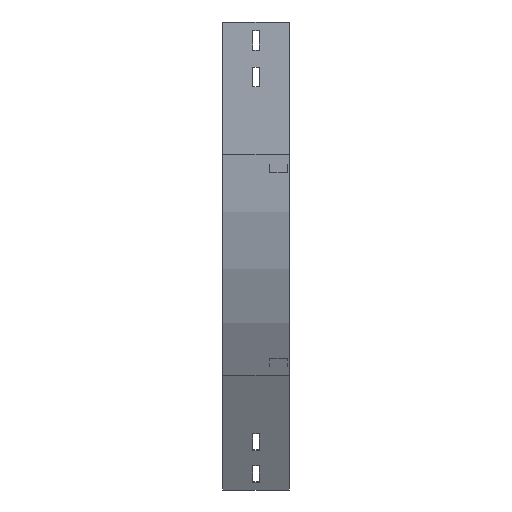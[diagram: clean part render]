
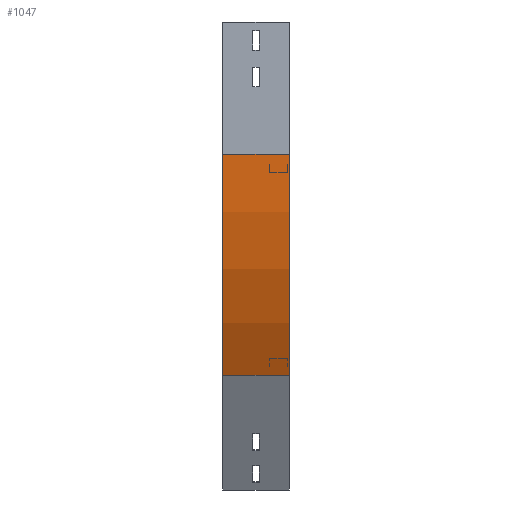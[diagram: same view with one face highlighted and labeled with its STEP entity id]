
A CAD part, left-side view. The second image highlights one B-rep face of the part: STEP entity #1047.
In plain terms, the highlighted cylindrical face has radius 500 mm (diameter 1000 mm), a partial arc.
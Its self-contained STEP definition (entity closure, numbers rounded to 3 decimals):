
#167 = LINE ( 'NONE', #1357, #2026 ) ;
#263 = AXIS2_PLACEMENT_3D ( 'NONE', #3335, #1774, #2743 ) ;
#308 = LINE ( 'NONE', #2689, #1547 ) ;
#455 = ORIENTED_EDGE ( 'NONE', *, *, #3283, .F. ) ;
#542 = CARTESIAN_POINT ( 'NONE',  ( 0., 0., -150. ) ) ;
#591 = VERTEX_POINT ( 'NONE', #542 ) ;
#832 = DIRECTION ( 'NONE',  ( -1., 0., 0. ) ) ;
#857 = VERTEX_POINT ( 'NONE', #2329 ) ;
#909 = CARTESIAN_POINT ( 'NONE',  ( 0., 75., -150. ) ) ;
#1047 = ADVANCED_FACE ( 'NONE', ( #1811 ), #3319, .T. ) ;
#1312 = EDGE_LOOP ( 'NONE', ( #1346, #455, #1412, #2233 ) ) ;
#1346 = ORIENTED_EDGE ( 'NONE', *, *, #2924, .F. ) ;
#1357 = CARTESIAN_POINT ( 'NONE',  ( 0., 0., -150. ) ) ;
#1408 = CARTESIAN_POINT ( 'NONE',  ( 66.987, 75., -400. ) ) ;
#1412 = ORIENTED_EDGE ( 'NONE', *, *, #2666, .T. ) ;
#1477 = DIRECTION ( 'NONE',  ( 0., -1., 0. ) ) ;
#1547 = VECTOR ( 'NONE', #2612, 1000. ) ;
#1727 = DIRECTION ( 'NONE',  ( 0., -1., 0. ) ) ;
#1751 = EDGE_CURVE ( 'NONE', #3773, #857, #308, .T. ) ;
#1774 = DIRECTION ( 'NONE',  ( 0., -1., 0. ) ) ;
#1806 = CARTESIAN_POINT ( 'NONE',  ( 500., 75., -150. ) ) ;
#1811 = FACE_OUTER_BOUND ( 'NONE', #1312, .T. ) ;
#1832 = AXIS2_PLACEMENT_3D ( 'NONE', #1806, #1477, #3333 ) ;
#1835 = CIRCLE ( 'NONE', #2024, 500. ) ;
#2024 = AXIS2_PLACEMENT_3D ( 'NONE', #3739, #1727, #832 ) ;
#2026 = VECTOR ( 'NONE', #2276, 1000. ) ;
#2233 = ORIENTED_EDGE ( 'NONE', *, *, #1751, .T. ) ;
#2276 = DIRECTION ( 'NONE',  ( 0., -1., 0. ) ) ;
#2329 = CARTESIAN_POINT ( 'NONE',  ( 66.987, 0., -400. ) ) ;
#2612 = DIRECTION ( 'NONE',  ( 0., -1., 0. ) ) ;
#2666 = EDGE_CURVE ( 'NONE', #2705, #3773, #3466, .T. ) ;
#2689 = CARTESIAN_POINT ( 'NONE',  ( 66.987, 0., -400. ) ) ;
#2705 = VERTEX_POINT ( 'NONE', #909 ) ;
#2743 = DIRECTION ( 'NONE',  ( 0., 0., -1. ) ) ;
#2924 = EDGE_CURVE ( 'NONE', #591, #857, #1835, .T. ) ;
#3283 = EDGE_CURVE ( 'NONE', #2705, #591, #167, .T. ) ;
#3319 = CYLINDRICAL_SURFACE ( 'NONE', #263, 500. ) ;
#3333 = DIRECTION ( 'NONE',  ( -1., 0., 0. ) ) ;
#3335 = CARTESIAN_POINT ( 'NONE',  ( 500., 0., -150. ) ) ;
#3466 = CIRCLE ( 'NONE', #1832, 500. ) ;
#3739 = CARTESIAN_POINT ( 'NONE',  ( 500., 0., -150. ) ) ;
#3773 = VERTEX_POINT ( 'NONE', #1408 ) ;
